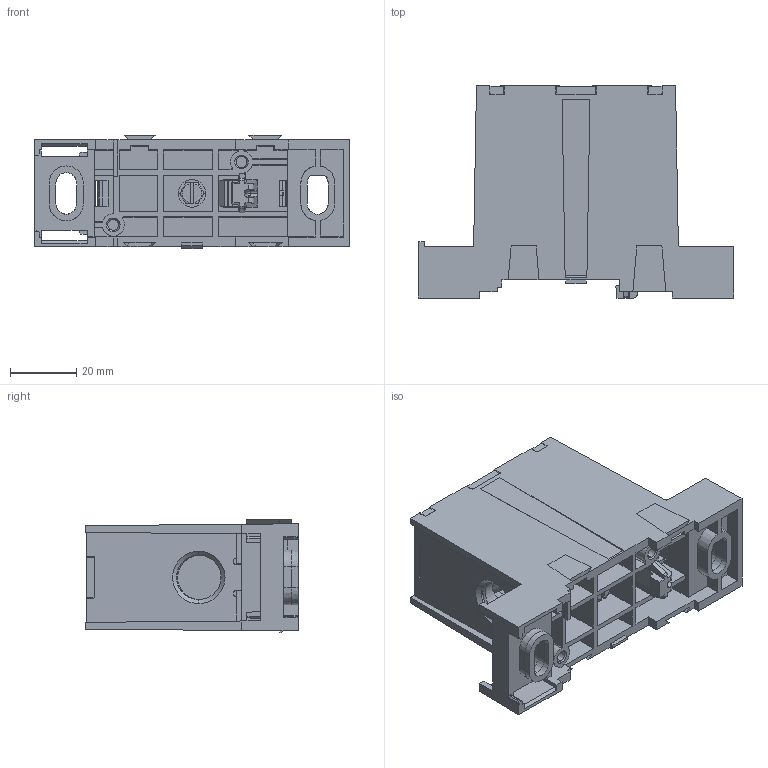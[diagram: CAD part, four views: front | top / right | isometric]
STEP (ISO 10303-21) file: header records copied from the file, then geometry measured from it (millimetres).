
FILE_DESCRIPTION (( 'STEP AP214' ), '1' );
FILE_NAME ('1492-PDE1C141.STEP', '2011-01-28T12:51:11', ( 'ROCKWELL AUTOMATION' ), ( 'ROCKWELL AUTOMATION' ), 'SwSTEP 2.0', 'SolidWorks 2009', '' );
FILE_SCHEMA (( 'AUTOMOTIVE_DESIGN' ));
Length unit declared in the file: inch
Products named in the file (9): 9800400; 9800444-03; 9800444-02; 98329XX_98339 Copper Conn; 9800444-05; 979924X_5mm Drive; 979926X_Cosmetic Th''d metric; 9644500; 1492-PDE1C141
Assembly tree (11 placements, depth 2):
  1492-PDE1C141
    9800444-05
    979924X_5mm Drive  x4
    9800400
    979926X_Cosmetic Th''d metric
    9644500
    9800444-02
    9800444-03
    98329XX_98339 Copper Conn
Bounding box: 95.58 x 64.29 x 34.24 mm (x, y, z)
Volume: 65707.4 mm3; surface area: 56069.5 mm2
Topology: 11 solids, 11 shells, 1369 faces, 3576 edges, 2241 vertices
Faces by surface type: plane 839, cone 251, cylinder 196, torus 41, bspline 30, sphere 12
Entity records: 42806 total; most frequent: CARTESIAN_POINT 8783, ORIENTED_EDGE 6688, DIRECTION 6241, EDGE_CURVE 3344, LINE 2451, VECTOR 2451, VERTEX_POINT 2103, AXIS2_PLACEMENT_3D 1895
